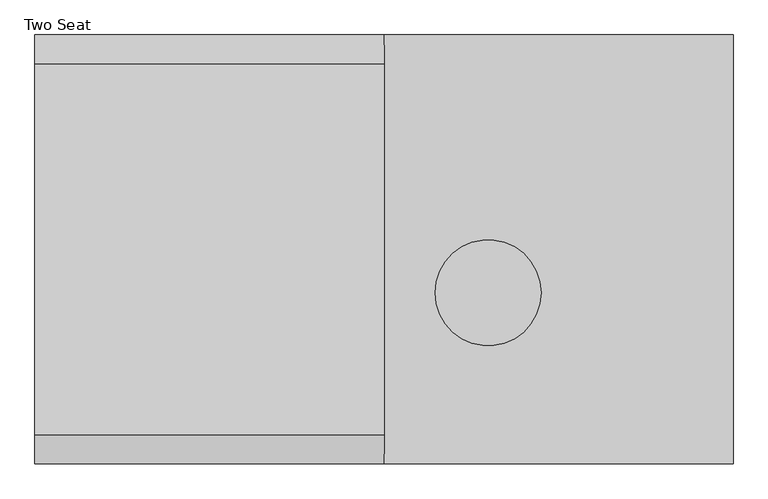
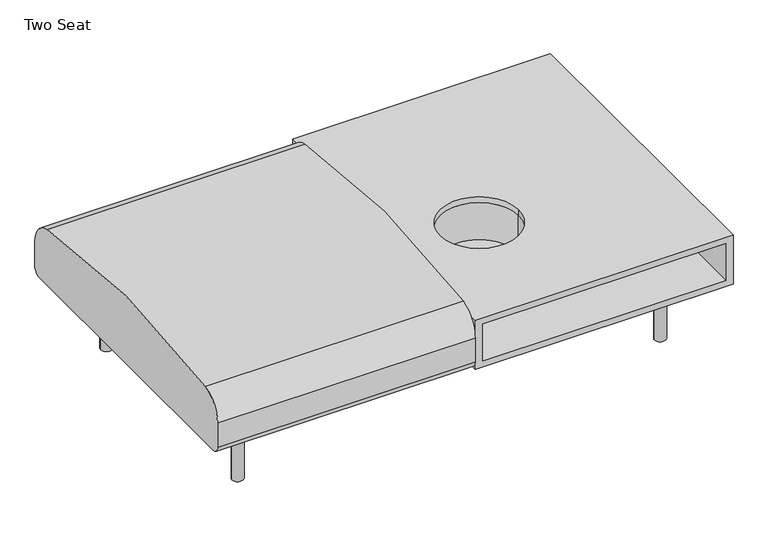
"""IFC4 building model written with IfcOpenShell, lengths in millimetres: furniture geometry, Coalesse_AM_Seating_LoungeChair_Sistema_LegBase_TwoSeat : Two Seat."""

from ifc_helpers import new_model, si_unit, point, frame, frame_2d, origin, origin_with_axes, place, context, project, spatial, polyline, circle_curve, trimmed, segment, composite_curve, outline, extrude, source, transform, mapped, element, save
from ifc_brep_helpers import plane_surface, cylinder_surface, revolved_surface, advanced_brep


def two_seat_1778cc0b(model_context):
    return source(origin(), model_context, "Body", "SolidModel", [
        extrude(outline(composite_curve([segment(trimmed(circle_curve(frame_2d((989.1765227, 335.9943389)), 6.096), [point((995.2725227, 335.9943389))], [point((983.0805227, 335.9943389))], False, "CARTESIAN"), True, "CONTINUOUS"), segment(trimmed(circle_curve(frame_2d((989.1765227, 335.9943389)), 6.096), [point((983.0805227, 335.9943389))], [point((995.2725227, 335.9943389))], False, "CARTESIAN"), True, "CONTINUOUS")], self_intersect=False)), origin_with_axes(), (0.0, 0.0, 1.0), 4.3662291),
        extrude(outline(composite_curve([segment(trimmed(circle_curve(frame_2d((989.1765227, -327.2630889)), 6.096), [point((995.2725227, -327.2630889))], [point((983.0805227, -327.2630889))], False, "CARTESIAN"), True, "CONTINUOUS"), segment(trimmed(circle_curve(frame_2d((989.1765227, -327.2630889)), 6.096), [point((983.0805227, -327.2630889))], [point((995.2725227, -327.2630889))], False, "CARTESIAN"), True, "CONTINUOUS")], self_intersect=False)), origin_with_axes(), (0.0, 0.0, 1.0), 4.3662291),
        extrude(outline(composite_curve([segment(polyline([(157.0399209, 1001.756375), (201.7356243, 1001.756375)]), True, "CONTINUOUS"), segment(trimmed(circle_curve(frame_2d((201.7356243, 998.708375)), 3.048), [point((201.7356243, 1001.756375))], [point((204.7836243, 998.708375))], False, "CARTESIAN"), True, "CONTINUOUS"), segment(polyline([(204.7836243, 998.708375), (204.7836243, 979.366199)]), True, "CONTINUOUS"), segment(trimmed(circle_curve(frame_2d((201.7356243, 979.366199)), 3.048), [point((204.7836243, 979.366199))], [point((201.7356243, 976.318199))], False, "CARTESIAN"), True, "CONTINUOUS"), segment(polyline([(201.7356243, 976.318199), (157.1249936, 976.318199)]), True, "CONTINUOUS"), segment(trimmed(circle_curve(frame_2d((157.1249936, 979.4512718)), 3.1330728), [point((157.1249936, 976.318199))], [point((153.9919209, 979.4512718))], False, "CARTESIAN"), True, "CONTINUOUS"), segment(polyline([(153.9919209, 979.4512718), (153.9919209, 998.708375)]), True, "CONTINUOUS"), segment(trimmed(circle_curve(frame_2d((157.0399209, 998.708375)), 3.048), [point((153.9919209, 998.708375))], [point((157.0399209, 1001.756375))], False, "CARTESIAN"), True, "CONTINUOUS")], self_intersect=False)), frame((0.0, 222.3519802, 0.0), z_axis=(0.0, 1.0, 0.0), x_axis=(0.0, 0.0, 1.0)), (0.0, 0.0, 1.0), 92.6273161),
        extrude(outline(composite_curve([segment(polyline([(157.0399209, 1001.756375), (201.7356243, 1001.756375)]), True, "CONTINUOUS"), segment(trimmed(circle_curve(frame_2d((201.7356243, 998.708375)), 3.048), [point((201.7356243, 1001.756375))], [point((204.7836243, 998.708375))], False, "CARTESIAN"), True, "CONTINUOUS"), segment(polyline([(204.7836243, 998.708375), (204.7836243, 979.366199)]), True, "CONTINUOUS"), segment(trimmed(circle_curve(frame_2d((201.7356243, 979.366199)), 3.048), [point((204.7836243, 979.366199))], [point((201.7356243, 976.318199))], False, "CARTESIAN"), True, "CONTINUOUS"), segment(polyline([(201.7356243, 976.318199), (157.1249936, 976.318199)]), True, "CONTINUOUS"), segment(trimmed(circle_curve(frame_2d((157.1249936, 979.4512718)), 3.1330728), [point((157.1249936, 976.318199))], [point((153.9919209, 979.4512718))], False, "CARTESIAN"), True, "CONTINUOUS"), segment(polyline([(153.9919209, 979.4512718), (153.9919209, 998.708375)]), True, "CONTINUOUS"), segment(trimmed(circle_curve(frame_2d((157.0399209, 998.708375)), 3.048), [point((153.9919209, 998.708375))], [point((157.0399209, 1001.756375))], False, "CARTESIAN"), True, "CONTINUOUS")], self_intersect=False)), frame((0.0, -314.9792963, 0.0), z_axis=(0.0, 1.0, 0.0), x_axis=(0.0, 0.0, 1.0)), (0.0, 0.0, 1.0), 92.6273161),
        extrude(outline(composite_curve([segment(trimmed(circle_curve(frame_2d((176.3356606, 966.5259944)), 3.048), [point((179.3836606, 966.5259944))], [point((176.3356606, 963.4779944))], False, "CARTESIAN"), True, "CONTINUOUS"), segment(polyline([(176.3356606, 963.4779944), (157.0399209, 963.4779944)]), True, "CONTINUOUS"), segment(trimmed(circle_curve(frame_2d((157.0399209, 966.5259944)), 3.048), [point((157.0399209, 963.4779944))], [point((153.9919209, 966.5259944))], False, "CARTESIAN"), True, "CONTINUOUS"), segment(polyline([(153.9919209, 966.5259944), (153.9919209, 1011.2135501)]), True, "CONTINUOUS"), segment(trimmed(circle_curve(frame_2d((157.056462, 1011.2135501)), 3.0645412), [point((153.9919209, 1011.2135501))], [point((157.056462, 1014.2780913))], False, "CARTESIAN"), True, "CONTINUOUS"), segment(polyline([(157.056462, 1014.2780913), (176.3356606, 1014.2780913)]), True, "CONTINUOUS"), segment(trimmed(circle_curve(frame_2d((176.3356606, 1011.2300913)), 3.048), [point((176.3356606, 1014.2780913))], [point((179.3836606, 1011.2300913))], False, "CARTESIAN"), True, "CONTINUOUS"), segment(polyline([(179.3836606, 1011.2300913), (179.3836606, 966.5259944)]), True, "CONTINUOUS")], self_intersect=False)), frame((0.0, -222.3519802, 0.0), z_axis=(0.0, 1.0, 0.0), x_axis=(0.0, 0.0, 1.0)), (0.0, 0.0, 1.0), 444.7039604),
        extrude(outline(composite_curve([segment(trimmed(circle_curve(frame_2d((989.1765227, 332.3095741)), 16.51), [point((1005.6865227, 332.3095741))], [point((972.6665227, 332.3095741))], False, "CARTESIAN"), True, "CONTINUOUS"), segment(trimmed(circle_curve(frame_2d((989.1765227, 332.3095741)), 16.51), [point((972.6665227, 332.3095741))], [point((1005.6865227, 332.3095741))], False, "CARTESIAN"), True, "CONTINUOUS")], self_intersect=False)), frame((0.0, 0.0, 4.3662291), z_axis=(0.0, 0.0, 1.0), x_axis=(1.0, 0.0, 0.0)), (0.0, 0.0, 1.0), 200.1037709),
        extrude(outline(composite_curve([segment(trimmed(circle_curve(frame_2d((988.7796477, -327.5470741)), 16.51), [point((1005.2896477, -327.5470741))], [point((972.2696477, -327.5470741))], False, "CARTESIAN"), True, "CONTINUOUS"), segment(trimmed(circle_curve(frame_2d((988.7796477, -327.5470741)), 16.51), [point((972.2696477, -327.5470741))], [point((1005.2896477, -327.5470741))], False, "CARTESIAN"), True, "CONTINUOUS")], self_intersect=False)), frame((0.0, 0.0, 4.3662291), z_axis=(0.0, 0.0, 1.0), x_axis=(1.0, 0.0, 0.0)), (0.0, 0.0, 1.0), 200.1037709),
        extrude(outline(composite_curve([segment(trimmed(circle_curve(frame_2d((-438.9184381, 226.822)), 22.352), [point((-438.9184381, 204.47))], [point((-461.2704381, 226.822))], False, "CARTESIAN"), True, "CONTINUOUS"), segment(polyline([(-461.2704381, 226.822), (-461.2704381, 301.4421993)]), True, "CONTINUOUS"), segment(trimmed(circle_curve(frame_2d((-385.0704381, 301.4421993)), 76.2), [point((-461.2704381, 301.4421993))], [point((-398.9279534, 376.3715612))], False, "CARTESIAN"), True, "CONTINUOUS"), segment(trimmed(circle_curve(frame_2d((-0.3717831, -1778.6727457)), 2191.5891461), [point((-398.9279534, 376.3715612))], [point((397.0993513, 376.5719464))], False, "CARTESIAN"), True, "CONTINUOUS"), segment(trimmed(circle_curve(frame_2d((383.2795619, 301.6356173)), 76.2), [point((397.0993513, 376.5719464))], [point((459.4795619, 301.6356173))], False, "CARTESIAN"), True, "CONTINUOUS"), segment(polyline([(459.4795619, 301.6356173), (459.4795619, 226.7871991)]), True, "CONTINUOUS"), segment(trimmed(circle_curve(frame_2d((437.1623628, 226.7871991)), 22.3171991), [point((459.4795619, 226.7871991))], [point((437.1623628, 204.47))], False, "CARTESIAN"), True, "CONTINUOUS"), segment(polyline([(437.1623628, 204.47), (-438.9184381, 204.47)]), True, "CONTINUOUS")], self_intersect=False)), frame((-374.8034773, 0.0, 0.0), z_axis=(1.0, 0.0, 0.0), x_axis=(0.0, 1.0, 0.0)), (0.0, 0.0, 1.0), 749.3),
        advanced_brep(
        [(484.2332034, -93.7879891, 336.5210652), (711.5952223, -93.7879891, 336.5210652), (711.5952223, -93.7879891, 223.173587), (711.5952223, -93.7879891, 212.4123377), (484.2332034, -93.7879891, 212.4123377), (484.2332034, -93.7879891, 223.173587), (469.9892458, -93.7879891, 212.4123377), (725.8391799, -93.7879891, 212.4123377), (469.9892458, -93.7879891, 336.5210652), (725.8391799, -93.7879891, 336.5210652)],
        [
            (0, 1, circle_curve(frame((597.9142128, -93.7879891, 336.5210652), z_axis=(0.0, 0.0, 1.0), x_axis=(1.0, 0.0, 0.0)), 113.6810095)),
            (1, 2),
            (2, 3),
            (3, 4, circle_curve(frame((597.9142128, -93.7879891, 212.4123377), z_axis=(0.0, 0.0, -1.0), x_axis=(1.0, 0.0, 0.0)), 113.6810095)),
            (4, 5),
            (5, 0),
            (6, 7, circle_curve(frame((597.9142128, -93.7879891, 212.4123377), z_axis=(0.0, 0.0, -1.0), x_axis=(1.0, 0.0, 0.0)), 127.924967)),
            (7, 6, circle_curve(frame((597.9142128, -93.7879891, 212.4123377), z_axis=(0.0, 0.0, -1.0), x_axis=(1.0, 0.0, 0.0)), 127.924967)),
            (3, 4, circle_curve(frame((597.9142128, -93.7879891, 212.4123377), z_axis=(0.0, 0.0, 1.0), x_axis=(1.0, 0.0, 0.0)), 113.6810095)),
            (8, 9, circle_curve(frame((597.9142128, -93.7879891, 336.5210652), z_axis=(0.0, 0.0, 1.0), x_axis=(1.0, 0.0, 0.0)), 127.924967)),
            (9, 8, circle_curve(frame((597.9142128, -93.7879891, 336.5210652), z_axis=(0.0, 0.0, 1.0), x_axis=(1.0, 0.0, 0.0)), 127.924967)),
            (0, 1, circle_curve(frame((597.9142128, -93.7879891, 336.5210652), z_axis=(0.0, 0.0, -1.0), x_axis=(1.0, 0.0, 0.0)), 113.6810095)),
            (8, 6),
            (7, 9),
        ],
        [
            revolved_surface(polyline([(711.5952222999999, -93.7879891, 212.4123377), (711.5952222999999, -93.7879891, 336.5210652)]), (597.9142128, -93.7879891, 212.4123377), (0.0, 0.0, -1.0)),
            plane_surface(frame((711.5952223, -93.7879891, 212.4123377), z_axis=(0.0, 0.0, -1.0), x_axis=(0.0, 1.0, 0.0))),
            plane_surface(frame((711.5952223, -93.7879891, 336.5210652), z_axis=(0.0, 0.0, 1.0), x_axis=(0.0, -1.0, 0.0))),
            cylinder_surface(frame((597.9142128, -93.7879891, 0.0), z_axis=(0.0, 0.0, 1.0), x_axis=(1.0, 0.0, 0.0)), 127.924967),
        ],
        [
            (0, [[1, 2, 3, 4, 5, 6]]),
            (1, [[7, 8], [-4, 9]]),
            (2, [[10, 11], [12, -1]]),
            (0, [[-12, -6, -5, -9, -3, -2]]),
            (3, [[-10, 13, -8, 14]]),
            (3, [[-11, -14, -7, -13]]),
        ],
    ),
        advanced_brep(
        [(1102.9069667, -461.2704381, 336.5211742), (396.2928302, -461.2704381, 336.5211742), (396.2928302, 459.4795619, 336.5211742), (1102.9069667, 459.4795619, 336.5211742), (711.5952223, -93.7879891, 336.5211742), (484.2332034, -93.7879891, 336.5211742), (1123.7965227, -461.2704381, 354.7774), (374.4965227, -461.2704381, 354.7774), (374.4965227, -461.2704381, 204.47), (1123.7965227, -461.2704381, 204.47), (1102.9069667, -461.2704381, 223.173587), (396.2928302, -461.2704381, 223.173587), (1123.7965227, 459.4795619, 354.7774), (1123.7965227, 459.4795619, 204.47), (374.4965227, 459.4795619, 204.47), (374.4965227, 459.4795619, 354.7774), (396.2928302, 459.4795619, 223.173587), (1102.9069667, 459.4795619, 223.173587), (484.2332034, -93.7879891, 354.7774), (711.5952223, -93.7879891, 354.7774)],
        [
            (0, 1),
            (1, 2),
            (2, 3),
            (3, 0),
            (4, 5, circle_curve(frame((597.9142128, -93.7879891, 336.5211742), z_axis=(0.0, 0.0, 1.0), x_axis=(1.0, 0.0, 0.0)), 113.6810095)),
            (5, 4, circle_curve(frame((597.9142128, -93.7879891, 336.5211742), z_axis=(0.0, 0.0, 1.0), x_axis=(1.0, 0.0, 0.0)), 113.6810095)),
            (6, 7),
            (7, 8),
            (8, 9),
            (9, 6),
            (0, 10),
            (10, 11),
            (11, 1),
            (12, 13),
            (13, 14),
            (14, 15),
            (15, 12),
            (2, 16),
            (16, 17),
            (17, 3),
            (6, 12),
            (15, 7),
            (18, 19, circle_curve(frame((597.9142128, -93.7879891, 354.7774), z_axis=(0.0, 0.0, -1.0), x_axis=(1.0, 0.0, 0.0)), 113.6810095)),
            (19, 18, circle_curve(frame((597.9142128, -93.7879891, 354.7774), z_axis=(0.0, 0.0, -1.0), x_axis=(1.0, 0.0, 0.0)), 113.6810095)),
            (14, 8),
            (13, 9),
            (11, 16),
            (17, 10),
            (18, 5),
            (4, 19),
        ],
        [
            plane_surface(frame((396.2928302, -461.2704381, 336.5211742), z_axis=(0.0, 0.0, -1.0), x_axis=(0.0, 1.0, 0.0))),
            plane_surface(frame((378.0346424, -461.2704381, 354.7774), z_axis=(0.0, -1.0, 0.0), x_axis=(-1.0, 0.0, 0.0))),
            plane_surface(frame((378.0346424, 459.4795619, 354.7774), z_axis=(0.0, 1.0, 0.0), x_axis=(1.0, 0.0, 0.0))),
            plane_surface(frame((1123.7965227, -461.2704381, 354.7774), z_axis=(0.0, 0.0, 1.0), x_axis=(0.0, 1.0, 0.0))),
            plane_surface(frame((374.4965227, -461.2704381, 354.7774), z_axis=(-1.0, 0.0, 0.0), x_axis=(0.0, 1.0, 0.0))),
            plane_surface(frame((374.4965227, -461.2704381, 204.47), z_axis=(0.0, 0.0, -1.0), x_axis=(0.0, 1.0, 0.0))),
            plane_surface(frame((1123.7965227, -461.2704381, 204.47), z_axis=(1.0, 0.0, 0.0), x_axis=(0.0, 1.0, 0.0))),
            plane_surface(frame((396.2928302, -461.2704381, 223.173587), z_axis=(1.0, 0.0, 0.0), x_axis=(0.0, 1.0, 0.0))),
            plane_surface(frame((1102.9069667, -461.2704381, 336.5211742), z_axis=(-1.0, 0.0, 0.0), x_axis=(0.0, 1.0, 0.0))),
            plane_surface(frame((1102.9069667, -461.2704381, 223.173587), z_axis=(0.0, 0.0, 1.0), x_axis=(0.0, 1.0, 0.0))),
            revolved_surface(polyline([(711.5952222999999, -93.7879891, 336.5211742), (711.5952222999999, -93.7879891, 354.7774)]), (597.9142128, -93.7879891, 354.7774), (0.0, 0.0, -1.0)),
        ],
        [
            (0, [[1, 2, 3, 4], [5, 6]]),
            (1, [[7, 8, 9, 10], [11, 12, 13, -1]]),
            (2, [[14, 15, 16, 17], [-3, 18, 19, 20]]),
            (3, [[-7, 21, -17, 22], [23, 24]]),
            (4, [[-8, -22, -16, 25]]),
            (5, [[-9, -25, -15, 26]]),
            (6, [[-10, -26, -14, -21]]),
            (7, [[-13, 27, -18, -2]]),
            (8, [[-11, -4, -20, 28]]),
            (9, [[-12, -28, -19, -27]]),
            (10, [[29, -5, 30, -23]]),
            (10, [[-29, -24, -30, -6]]),
        ],
    ),
        extrude(outline(composite_curve([segment(trimmed(circle_curve(frame_2d((-240.1834773, 335.9943389)), 6.096), [point((-246.2794773, 335.9943389))], [point((-234.0874773, 335.9943389))], False, "CARTESIAN"), True, "CONTINUOUS"), segment(trimmed(circle_curve(frame_2d((-240.1834773, 335.9943389)), 6.096), [point((-234.0874773, 335.9943389))], [point((-246.2794773, 335.9943389))], False, "CARTESIAN"), True, "CONTINUOUS")], self_intersect=False)), origin_with_axes(), (0.0, 0.0, 1.0), 4.3662291),
        extrude(outline(composite_curve([segment(trimmed(circle_curve(frame_2d((-240.1834773, -327.2630889)), 6.096), [point((-246.2794773, -327.2630889))], [point((-234.0874773, -327.2630889))], False, "CARTESIAN"), True, "CONTINUOUS"), segment(trimmed(circle_curve(frame_2d((-240.1834773, -327.2630889)), 6.096), [point((-234.0874773, -327.2630889))], [point((-246.2794773, -327.2630889))], False, "CARTESIAN"), True, "CONTINUOUS")], self_intersect=False)), origin_with_axes(), (0.0, 0.0, 1.0), 4.3662291),
        extrude(outline(composite_curve([segment(trimmed(circle_curve(frame_2d((157.0399209, -249.7153296)), 3.048), [point((157.0399209, -252.7633296))], [point((153.9919209, -249.7153296))], False, "CARTESIAN"), True, "CONTINUOUS"), segment(polyline([(153.9919209, -249.7153296), (153.9919209, -230.4582264)]), True, "CONTINUOUS"), segment(trimmed(circle_curve(frame_2d((157.1249936, -230.4582264)), 3.1330728), [point((153.9919209, -230.4582264))], [point((157.1249936, -227.3251537))], False, "CARTESIAN"), True, "CONTINUOUS"), segment(polyline([(157.1249936, -227.3251537), (201.7356243, -227.3251537)]), True, "CONTINUOUS"), segment(trimmed(circle_curve(frame_2d((201.7356243, -230.3731537)), 3.048), [point((201.7356243, -227.3251537))], [point((204.7836243, -230.3731537))], False, "CARTESIAN"), True, "CONTINUOUS"), segment(polyline([(204.7836243, -230.3731537), (204.7836243, -249.7153296)]), True, "CONTINUOUS"), segment(trimmed(circle_curve(frame_2d((201.7356243, -249.7153296)), 3.048), [point((204.7836243, -249.7153296))], [point((201.7356243, -252.7633296))], False, "CARTESIAN"), True, "CONTINUOUS"), segment(polyline([(201.7356243, -252.7633296), (157.0399209, -252.7633296)]), True, "CONTINUOUS")], self_intersect=False)), frame((0.0, 222.3519802, 0.0), z_axis=(0.0, 1.0, 0.0), x_axis=(0.0, 0.0, 1.0)), (0.0, 0.0, 1.0), 92.6273161),
        extrude(outline(composite_curve([segment(trimmed(circle_curve(frame_2d((157.0399209, -249.7153296)), 3.048), [point((157.0399209, -252.7633296))], [point((153.9919209, -249.7153296))], False, "CARTESIAN"), True, "CONTINUOUS"), segment(polyline([(153.9919209, -249.7153296), (153.9919209, -230.4582264)]), True, "CONTINUOUS"), segment(trimmed(circle_curve(frame_2d((157.1249936, -230.4582264)), 3.1330728), [point((153.9919209, -230.4582264))], [point((157.1249936, -227.3251537))], False, "CARTESIAN"), True, "CONTINUOUS"), segment(polyline([(157.1249936, -227.3251537), (201.7356243, -227.3251537)]), True, "CONTINUOUS"), segment(trimmed(circle_curve(frame_2d((201.7356243, -230.3731537)), 3.048), [point((201.7356243, -227.3251537))], [point((204.7836243, -230.3731537))], False, "CARTESIAN"), True, "CONTINUOUS"), segment(polyline([(204.7836243, -230.3731537), (204.7836243, -249.7153296)]), True, "CONTINUOUS"), segment(trimmed(circle_curve(frame_2d((201.7356243, -249.7153296)), 3.048), [point((204.7836243, -249.7153296))], [point((201.7356243, -252.7633296))], False, "CARTESIAN"), True, "CONTINUOUS"), segment(polyline([(201.7356243, -252.7633296), (157.0399209, -252.7633296)]), True, "CONTINUOUS")], self_intersect=False)), frame((0.0, -314.9792963, 0.0), z_axis=(0.0, 1.0, 0.0), x_axis=(0.0, 0.0, 1.0)), (0.0, 0.0, 1.0), 92.6273161),
        extrude(outline(composite_curve([segment(polyline([(179.3836606, -217.532949), (179.3836606, -262.2370459)]), True, "CONTINUOUS"), segment(trimmed(circle_curve(frame_2d((176.3356606, -262.2370459)), 3.048), [point((179.3836606, -262.2370459))], [point((176.3356606, -265.2850459))], False, "CARTESIAN"), True, "CONTINUOUS"), segment(polyline([(176.3356606, -265.2850459), (157.056462, -265.2850459)]), True, "CONTINUOUS"), segment(trimmed(circle_curve(frame_2d((157.056462, -262.2205047)), 3.0645412), [point((157.056462, -265.2850459))], [point((153.9919209, -262.2205047))], False, "CARTESIAN"), True, "CONTINUOUS"), segment(polyline([(153.9919209, -262.2205047), (153.9919209, -217.532949)]), True, "CONTINUOUS"), segment(trimmed(circle_curve(frame_2d((157.0399209, -217.532949)), 3.048), [point((153.9919209, -217.532949))], [point((157.0399209, -214.484949))], False, "CARTESIAN"), True, "CONTINUOUS"), segment(polyline([(157.0399209, -214.484949), (176.3356606, -214.484949)]), True, "CONTINUOUS"), segment(trimmed(circle_curve(frame_2d((176.3356606, -217.532949)), 3.048), [point((176.3356606, -214.484949))], [point((179.3836606, -217.532949))], False, "CARTESIAN"), True, "CONTINUOUS")], self_intersect=False)), frame((0.0, -222.3519802, 0.0), z_axis=(0.0, 1.0, 0.0), x_axis=(0.0, 0.0, 1.0)), (0.0, 0.0, 1.0), 444.7039604),
        extrude(outline(composite_curve([segment(trimmed(circle_curve(frame_2d((-240.1834773, 332.3095741)), 16.51), [point((-256.6934773, 332.3095741))], [point((-223.6734773, 332.3095741))], False, "CARTESIAN"), True, "CONTINUOUS"), segment(trimmed(circle_curve(frame_2d((-240.1834773, 332.3095741)), 16.51), [point((-223.6734773, 332.3095741))], [point((-256.6934773, 332.3095741))], False, "CARTESIAN"), True, "CONTINUOUS")], self_intersect=False)), frame((0.0, 0.0, 4.3662291), z_axis=(0.0, 0.0, 1.0), x_axis=(1.0, 0.0, 0.0)), (0.0, 0.0, 1.0), 200.1037709),
        extrude(outline(composite_curve([segment(trimmed(circle_curve(frame_2d((-239.7866023, -327.5470741)), 16.51), [point((-256.2966023, -327.5470741))], [point((-223.2766023, -327.5470741))], False, "CARTESIAN"), True, "CONTINUOUS"), segment(trimmed(circle_curve(frame_2d((-239.7866023, -327.5470741)), 16.51), [point((-223.2766023, -327.5470741))], [point((-256.2966023, -327.5470741))], False, "CARTESIAN"), True, "CONTINUOUS")], self_intersect=False)), frame((0.0, 0.0, 4.3662291), z_axis=(0.0, 0.0, 1.0), x_axis=(1.0, 0.0, 0.0)), (0.0, 0.0, 1.0), 200.1037709),
    ])


if __name__ == "__main__":
    model = new_model("IFC4")
    model_context = context("Model", 3, world=origin())
    ifc_project = project(units=[si_unit("LENGTHUNIT", "METRE", prefix="MILLI")], contexts=[model_context])
    site = spatial("IfcSite", under=ifc_project)
    building = spatial("IfcBuilding", under=site)
    placement = place(None, origin())
    two_seat_shape = two_seat_1778cc0b(model_context)
    element("IfcFurniture", 1, ObjectType="Coalesse_AM_Seating_LoungeChair_Sistema_LegBase_TwoSeat : Two Seat", at=placement, inside=building, context=model_context, shape_type="MappedRepresentation", body=[
        mapped(two_seat_shape, transform((0.0, 0.0, 0.0), x_axis=(1.0, 0.0, 0.0), y_axis=(0.0, 1.0, 0.0), z_axis=(0.0, 0.0, 1.0))),
    ])
    save(model, "model.ifc")
